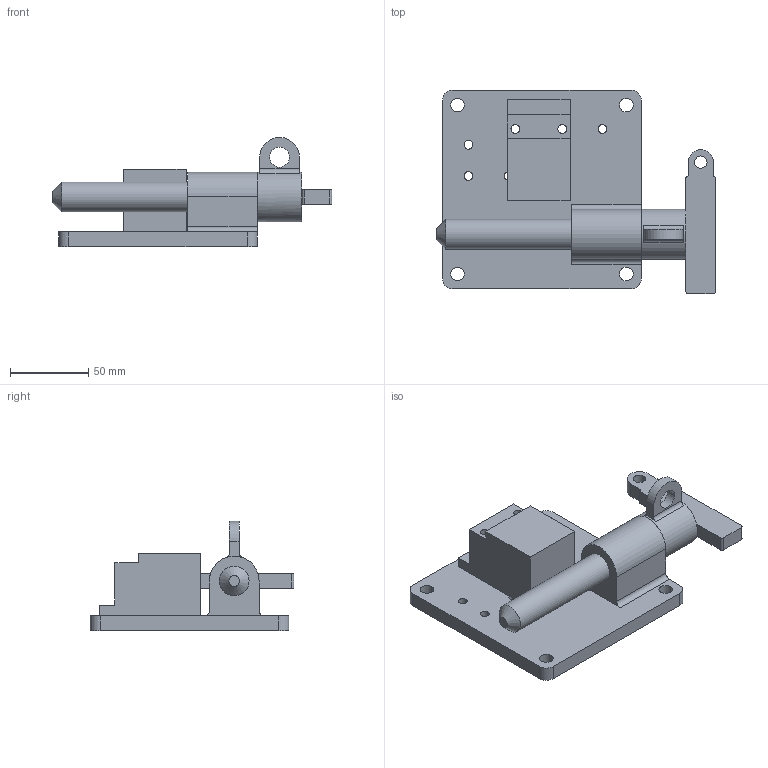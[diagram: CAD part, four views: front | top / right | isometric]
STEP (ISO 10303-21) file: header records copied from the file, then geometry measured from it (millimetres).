
FILE_DESCRIPTION(/* description */ (''),/* implementation_level */ '2;1');
FILE_NAME(/* name */ 'C:\Users\rcarver\Desktop\Tru-LOK pin\GM\With Switch\SP19Y125TR00200.stp',/* time_stamp */ '2016-06-24T13:27:10-04:00',/* author */ ('rcarver'),/* organization */ (''),/* preprocessor_version */ 'ST-DEVELOPER v16.5',/* originating_system */ 'Autodesk Inventor 2017',/* authorisation */ '');
FILE_SCHEMA (('AUTOMOTIVE_DESIGN { 1 0 10303 214 3 1 1 }'));
Length unit declared in the file: millimetre
Products named in the file (1): SP19Y125TR00200
Bounding box: 178.62 x 130.18 x 69.85 mm (x, y, z)
Volume: 348419.2 mm3; surface area: 72370 mm2
Topology: 3 solids, 3 shells, 69 faces, 192 edges, 131 vertices
Faces by surface type: plane 37, cylinder 31, cone 1
Full cylindrical faces by diameter (mm): 5.588 x2, 5.59 x6, 7.94 x1, 8.74 x4, 12.7 x1, 19 x1, 31.75 x1
Entity records: 2178 total; most frequent: DIRECTION 368, CARTESIAN_POINT 346, ORIENTED_EDGE 320, EDGE_CURVE 160, AXIS2_PLACEMENT_3D 138, EDGE_LOOP 116, VERTEX_POINT 116, LINE 92
